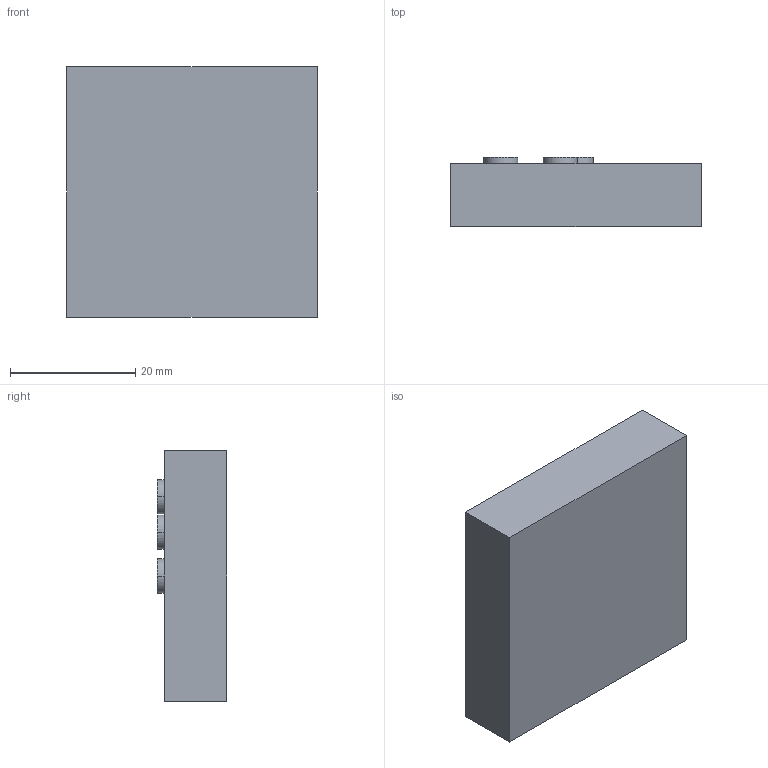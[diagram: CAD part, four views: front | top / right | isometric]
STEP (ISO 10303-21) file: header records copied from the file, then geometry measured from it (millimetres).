
FILE_DESCRIPTION((''),'2;1');
FILE_NAME('MISURE','2019-12-05T18:20:12',('crossi'),(''),'CREO PARAMETRIC BY PTC INC, 2017260','CREO PARAMETRIC BY PTC INC, 2017260','');
FILE_SCHEMA(('AUTOMOTIVE_DESIGN { 1 0 10303 214 1 1 1 1 }'));
Length unit declared in the file: millimetre
Products named in the file (1): MISURE
Bounding box: 40 x 11.1 x 40 mm (x, y, z)
Volume: 15610.4 mm3; surface area: 5587.3 mm2
Topology: 1 solids, 1 shells, 53 faces, 114 edges, 76 vertices
Faces by surface type: plane 35, cylinder 18
Entity records: 1632 total; most frequent: DIRECTION 256, CARTESIAN_POINT 245, ORIENTED_EDGE 228, COLOUR_RGB 137, EDGE_CURVE 114, AXIS2_PLACEMENT_3D 89, VECTOR 78, LINE 78
